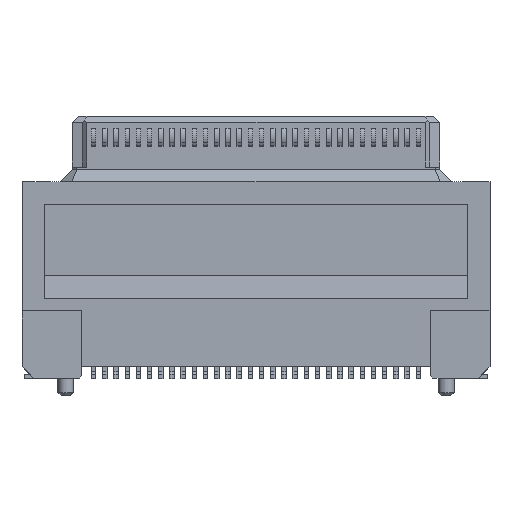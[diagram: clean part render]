
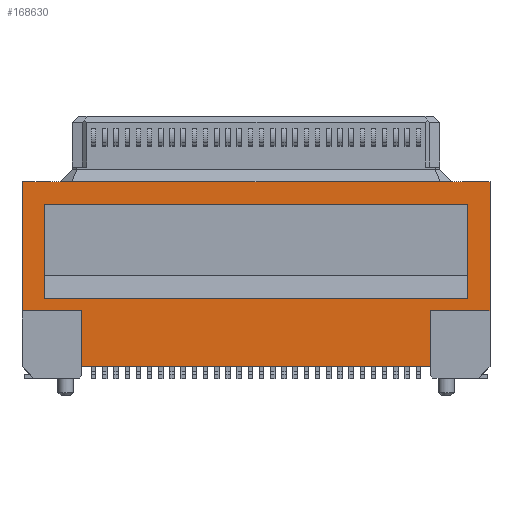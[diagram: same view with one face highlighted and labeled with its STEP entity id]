
A CAD part, front view. The second image highlights one B-rep face of the part: STEP entity #168630.
In plain terms, the highlighted planar face has unit normal (0, -1, 0) as drawn and (0, 0, 1) by its records, which use the part's own axes.
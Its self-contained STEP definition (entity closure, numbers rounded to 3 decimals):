
#1020=CARTESIAN_POINT('',(26.988,-4.86,5.3));
#1030=VERTEX_POINT('',#1020);
#1060=CARTESIAN_POINT('',(26.988,0.,5.3));
#1070=DIRECTION('',(0.,1.,0.));
#1080=VECTOR('',#1070,1.);
#1090=LINE('',#1060,#1080);
#1100=CARTESIAN_POINT('',(26.988,-2.36,5.3));
#1110=VERTEX_POINT('',#1100);
#1120=EDGE_CURVE('',#1030,#1110,#1090,.T.);
#36690=CARTESIAN_POINT('',(28.638,-1.79,5.3));
#36700=VERTEX_POINT('',#36690);
#36750=CARTESIAN_POINT('',(0.5,-1.79,5.3));
#36760=DIRECTION('',(1.,0.,0.));
#36770=VECTOR('',#36760,1.);
#36780=LINE('',#36750,#36770);
#36790=CARTESIAN_POINT('',(9.738,-1.79,5.3));
#36800=VERTEX_POINT('',#36790);
#36810=EDGE_CURVE('',#36800,#36700,#36780,.T.);
#55550=CARTESIAN_POINT('',(28.638,2.41,5.3));
#55560=VERTEX_POINT('',#55550);
#55730=CARTESIAN_POINT('',(9.738,2.41,5.3));
#55740=VERTEX_POINT('',#55730);
#55770=CARTESIAN_POINT('',(10.,2.41,5.3));
#55780=DIRECTION('',(1.,0.,0.));
#55790=VECTOR('',#55780,1.);
#55800=LINE('',#55770,#55790);
#55810=EDGE_CURVE('',#55740,#55560,#55800,.T.);
#86450=CARTESIAN_POINT('',(11.388,-4.86,5.3));
#86460=VERTEX_POINT('',#86450);
#86490=CARTESIAN_POINT('',(20.5,-4.86,5.3));
#86500=DIRECTION('',(-1.,0.,0.));
#86510=VECTOR('',#86500,1.);
#86520=LINE('',#86490,#86510);
#86530=EDGE_CURVE('',#1030,#86460,#86520,.T.);
#89910=CARTESIAN_POINT('',(28.638,0.,5.3));
#89920=DIRECTION('',(0.,-1.,0.));
#89930=VECTOR('',#89920,1.);
#89940=LINE('',#89910,#89930);
#89950=EDGE_CURVE('',#55560,#36700,#89940,.T.);
#90130=CARTESIAN_POINT('',(29.638,3.41,5.3));
#90140=VERTEX_POINT('',#90130);
#90290=CARTESIAN_POINT('',(29.638,-2.36,5.3));
#90300=VERTEX_POINT('',#90290);
#90330=CARTESIAN_POINT('',(29.638,1.,5.3));
#90340=DIRECTION('',(0.,-1.,0.));
#90350=VECTOR('',#90340,1.);
#90360=LINE('',#90330,#90350);
#90370=EDGE_CURVE('',#90140,#90300,#90360,.T.);
#168060=CARTESIAN_POINT('',(36.688,-4.86,5.3));
#168070=DIRECTION('',(0.,0.,1.));
#168080=DIRECTION('',(1.,0.,0.));
#168090=AXIS2_PLACEMENT_3D('',#168060,#168070,#168080);
#168100=PLANE('',#168090);
#168110=CARTESIAN_POINT('',(11.388,0.,5.3));
#168120=DIRECTION('',(0.,-1.,0.));
#168130=VECTOR('',#168120,1.);
#168140=LINE('',#168110,#168130);
#168150=CARTESIAN_POINT('',(11.388,-2.36,5.3));
#168160=VERTEX_POINT('',#168150);
#168170=EDGE_CURVE('',#168160,#86460,#168140,.T.);
#168180=ORIENTED_EDGE('',*,*,#168170,.T.);
#168190=CARTESIAN_POINT('',(20.,-2.36,5.3));
#168200=DIRECTION('',(1.,0.,0.));
#168210=VECTOR('',#168200,1.);
#168220=LINE('',#168190,#168210);
#168230=CARTESIAN_POINT('',(8.738,-2.36,5.3));
#168240=VERTEX_POINT('',#168230);
#168250=EDGE_CURVE('',#168240,#168160,#168220,.T.);
#168260=ORIENTED_EDGE('',*,*,#168250,.T.);
#168270=CARTESIAN_POINT('',(8.738,2.,5.3));
#168280=DIRECTION('',(0.,1.,0.));
#168290=VECTOR('',#168280,1.);
#168300=LINE('',#168270,#168290);
#168310=CARTESIAN_POINT('',(8.738,3.41,5.3));
#168320=VERTEX_POINT('',#168310);
#168330=EDGE_CURVE('',#168240,#168320,#168300,.T.);
#168340=ORIENTED_EDGE('',*,*,#168330,.F.);
#168350=CARTESIAN_POINT('',(48.876,3.41,5.3));
#168360=DIRECTION('',(1.,0.,0.));
#168370=VECTOR('',#168360,1.);
#168380=LINE('',#168350,#168370);
#168390=EDGE_CURVE('',#168320,#90140,#168380,.T.);
#168400=ORIENTED_EDGE('',*,*,#168390,.F.);
#168410=ORIENTED_EDGE('',*,*,#90370,.F.);
#168420=CARTESIAN_POINT('',(0.,-2.36,5.3));
#168430=DIRECTION('',(1.,0.,0.));
#168440=VECTOR('',#168430,1.);
#168450=LINE('',#168420,#168440);
#168460=EDGE_CURVE('',#1110,#90300,#168450,.T.);
#168470=ORIENTED_EDGE('',*,*,#168460,.T.);
#168480=ORIENTED_EDGE('',*,*,#1120,.T.);
#168490=ORIENTED_EDGE('',*,*,#86530,.F.);
#168500=EDGE_LOOP('',(#168490,#168480,#168470,#168410,#168400,#168340,
#168260,#168180));
#168510=FACE_OUTER_BOUND('',#168500,.T.);
#168520=ORIENTED_EDGE('',*,*,#89950,.T.);
#168530=ORIENTED_EDGE('',*,*,#55810,.T.);
#168540=CARTESIAN_POINT('',(9.738,2.,5.3));
#168550=DIRECTION('',(0.,1.,0.));
#168560=VECTOR('',#168550,1.);
#168570=LINE('',#168540,#168560);
#168580=EDGE_CURVE('',#36800,#55740,#168570,.T.);
#168590=ORIENTED_EDGE('',*,*,#168580,.T.);
#168600=ORIENTED_EDGE('',*,*,#36810,.F.);
#168610=EDGE_LOOP('',(#168600,#168590,#168530,#168520));
#168620=FACE_BOUND('',#168610,.T.);
#168630=ADVANCED_FACE('',(#168510,#168620),#168100,.T.);
